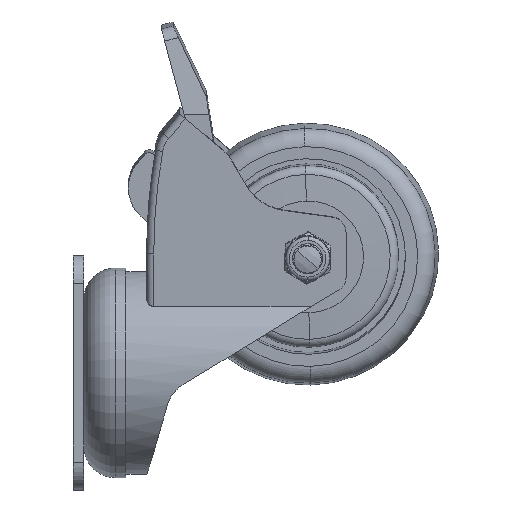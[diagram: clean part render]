
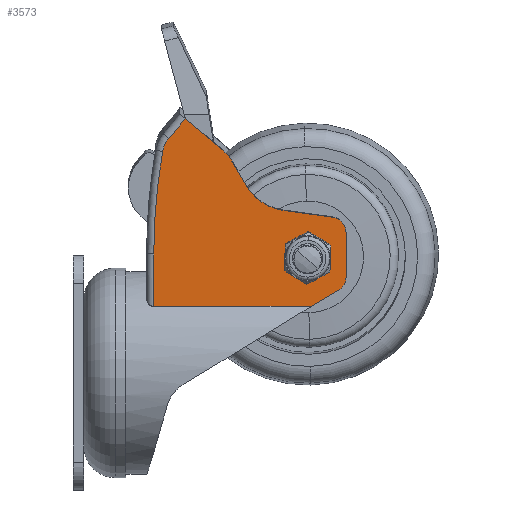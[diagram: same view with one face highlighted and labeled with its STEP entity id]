
A CAD part, left-side view. The second image highlights one B-rep face of the part: STEP entity #3573.
In plain terms, the highlighted planar face has unit normal (-0.999, 0, -0.046) as drawn and (-1, 0, 0) by its records, which use the part's own axes.
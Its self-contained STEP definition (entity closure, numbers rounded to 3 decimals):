
#137 = AXIS2_PLACEMENT_3D ( 'NONE', #7968, #19540, #176 ) ;
#176 = DIRECTION ( 'NONE',  ( 0., 0., -1. ) ) ;
#353 = VERTEX_POINT ( 'NONE', #21528 ) ;
#498 = ORIENTED_EDGE ( 'NONE', *, *, #1021, .F. ) ;
#856 = LINE ( 'NONE', #6767, #6109 ) ;
#893 = VERTEX_POINT ( 'NONE', #1180 ) ;
#1021 = EDGE_CURVE ( 'NONE', #353, #13939, #9701, .T. ) ;
#1064 = AXIS2_PLACEMENT_3D ( 'NONE', #24488, #12782, #20446 ) ;
#1180 = CARTESIAN_POINT ( 'NONE',  ( -21., 52.449, 64.317 ) ) ;
#1272 = CARTESIAN_POINT ( 'NONE',  ( -21., 3.888, 45.533 ) ) ;
#1593 = ORIENTED_EDGE ( 'NONE', *, *, #24088, .T. ) ;
#1682 = VERTEX_POINT ( 'NONE', #12592 ) ;
#1705 = CARTESIAN_POINT ( 'NONE',  ( -21., 55., 35. ) ) ;
#1782 = DIRECTION ( 'NONE',  ( 0., 0., -1. ) ) ;
#2310 = AXIS2_PLACEMENT_3D ( 'NONE', #9440, #21016, #1782 ) ;
#2521 = VECTOR ( 'NONE', #9323, 1000. ) ;
#2615 = ORIENTED_EDGE ( 'NONE', *, *, #11984, .F. ) ;
#2735 = VERTEX_POINT ( 'NONE', #23286 ) ;
#2783 = CARTESIAN_POINT ( 'NONE',  ( -21., -21.618, 38.971 ) ) ;
#2961 = CARTESIAN_POINT ( 'NONE',  ( -21., 55., 20. ) ) ;
#3055 = DIRECTION ( 'NONE',  ( 0., 0., -1. ) ) ;
#3218 = DIRECTION ( 'NONE',  ( 0., 0., -1. ) ) ;
#3517 = CARTESIAN_POINT ( 'NONE',  ( -21., 1.942, 24.835 ) ) ;
#3573 = ADVANCED_FACE ( 'NONE', ( #9538, #11063 ), #15059, .F. ) ;
#3684 = CARTESIAN_POINT ( 'NONE',  ( -21., 11., 30. ) ) ;
#3766 = VERTEX_POINT ( 'NONE', #20460 ) ;
#4059 = CARTESIAN_POINT ( 'NONE',  ( -21., 19.626, 51.611 ) ) ;
#4469 = VERTEX_POINT ( 'NONE', #3517 ) ;
#4550 = DIRECTION ( 'NONE',  ( 0., -0.991, -0.136 ) ) ;
#4761 = DIRECTION ( 'NONE',  ( 0., -0.502, -0.865 ) ) ;
#5353 = DIRECTION ( 'NONE',  ( -1., 0., 0. ) ) ;
#6028 = DIRECTION ( 'NONE',  ( 0., 0., -1. ) ) ;
#6109 = VECTOR ( 'NONE', #4761, 1000. ) ;
#6155 = DIRECTION ( 'NONE',  ( 0., 0., -1. ) ) ;
#6193 = AXIS2_PLACEMENT_3D ( 'NONE', #13813, #22988, #6155 ) ;
#6548 = EDGE_CURVE ( 'NONE', #1682, #3766, #856, .T. ) ;
#6767 = CARTESIAN_POINT ( 'NONE',  ( -21., 30.234, 57.442 ) ) ;
#6887 = VERTEX_POINT ( 'NONE', #1272 ) ;
#6992 = ORIENTED_EDGE ( 'NONE', *, *, #9135, .T. ) ;
#7786 = DIRECTION ( 'NONE',  ( 0., 0., -1. ) ) ;
#7898 = VERTEX_POINT ( 'NONE', #2961 ) ;
#7968 = CARTESIAN_POINT ( 'NONE',  ( -21., 11., 34. ) ) ;
#8408 = ORIENTED_EDGE ( 'NONE', *, *, #21651, .T. ) ;
#8559 = VECTOR ( 'NONE', #10214, 1000. ) ;
#8656 = CARTESIAN_POINT ( 'NONE',  ( -21., 10., 20. ) ) ;
#8709 = VECTOR ( 'NONE', #4550, 1000. ) ;
#8970 = AXIS2_PLACEMENT_3D ( 'NONE', #18670, #5353, #9120 ) ;
#8972 = EDGE_CURVE ( 'NONE', #2735, #19694, #24110, .T. ) ;
#9046 = CIRCLE ( 'NONE', #10272, 4. ) ;
#9049 = EDGE_CURVE ( 'NONE', #15232, #893, #10197, .T. ) ;
#9120 = DIRECTION ( 'NONE',  ( 0., 0., -1. ) ) ;
#9135 = EDGE_CURVE ( 'NONE', #2735, #6887, #16974, .T. ) ;
#9281 = DIRECTION ( 'NONE',  ( 0., 0.643, -0.766 ) ) ;
#9323 = DIRECTION ( 'NONE',  ( 0., -0.766, -0.643 ) ) ;
#9440 = CARTESIAN_POINT ( 'NONE',  ( -21., 11., 34. ) ) ;
#9538 = FACE_BOUND ( 'NONE', #24895, .T. ) ;
#9607 = DIRECTION ( 'NONE',  ( 0., 0., -1. ) ) ;
#9701 = LINE ( 'NONE', #4059, #2521 ) ;
#10153 = CARTESIAN_POINT ( 'NONE',  ( -21., 17.745, 47.435 ) ) ;
#10197 = CIRCLE ( 'NONE', #8970, 8. ) ;
#10214 = DIRECTION ( 'NONE',  ( 0., 0.857, -0.514 ) ) ;
#10217 = LINE ( 'NONE', #17866, #8709 ) ;
#10272 = AXIS2_PLACEMENT_3D ( 'NONE', #19607, #23251, #6028 ) ;
#10339 = LINE ( 'NONE', #2783, #8559 ) ;
#11025 = ORIENTED_EDGE ( 'NONE', *, *, #13244, .T. ) ;
#11063 = FACE_OUTER_BOUND ( 'NONE', #22209, .T. ) ;
#11112 = ORIENTED_EDGE ( 'NONE', *, *, #8972, .F. ) ;
#11426 = CARTESIAN_POINT ( 'NONE',  ( -21., 55., 75. ) ) ;
#11643 = EDGE_CURVE ( 'NONE', #23863, #13322, #14951, .T. ) ;
#11916 = CIRCLE ( 'NONE', #1064, 15. ) ;
#11984 = EDGE_CURVE ( 'NONE', #4469, #15668, #10339, .T. ) ;
#12002 = ORIENTED_EDGE ( 'NONE', *, *, #22123, .F. ) ;
#12010 = ORIENTED_EDGE ( 'NONE', *, *, #15844, .T. ) ;
#12039 = LINE ( 'NONE', #18504, #17001 ) ;
#12592 = CARTESIAN_POINT ( 'NONE',  ( -21., 32.832, 61.916 ) ) ;
#12782 = DIRECTION ( 'NONE',  ( 1., 0., 0. ) ) ;
#12833 = ORIENTED_EDGE ( 'NONE', *, *, #13701, .T. ) ;
#12967 = ORIENTED_EDGE ( 'NONE', *, *, #6548, .F. ) ;
#12985 = CIRCLE ( 'NONE', #6193, 10. ) ;
#13244 = EDGE_CURVE ( 'NONE', #1682, #13939, #12985, .T. ) ;
#13322 = VERTEX_POINT ( 'NONE', #15698 ) ;
#13437 = LINE ( 'NONE', #18842, #17880 ) ;
#13509 = DIRECTION ( 'NONE',  ( -1., 0., 0. ) ) ;
#13701 = EDGE_CURVE ( 'NONE', #7898, #15668, #12039, .T. ) ;
#13813 = CARTESIAN_POINT ( 'NONE',  ( -21., 41.48, 56.894 ) ) ;
#13939 = VERTEX_POINT ( 'NONE', #23169 ) ;
#14647 = VECTOR ( 'NONE', #22857, 1000. ) ;
#14946 = CARTESIAN_POINT ( 'NONE',  ( -21., 0., 28.265 ) ) ;
#14951 = CIRCLE ( 'NONE', #137, 4. ) ;
#15059 = PLANE ( 'NONE',  #16585 ) ;
#15135 = CIRCLE ( 'NONE', #21989, 169.752 ) ;
#15229 = ORIENTED_EDGE ( 'NONE', *, *, #23131, .T. ) ;
#15232 = VERTEX_POINT ( 'NONE', #15729 ) ;
#15454 = EDGE_CURVE ( 'NONE', #21788, #7898, #20851, .T. ) ;
#15587 = EDGE_CURVE ( 'NONE', #4469, #19694, #9046, .T. ) ;
#15668 = VERTEX_POINT ( 'NONE', #8656 ) ;
#15698 = CARTESIAN_POINT ( 'NONE',  ( -21., 11., 38. ) ) ;
#15729 = CARTESIAN_POINT ( 'NONE',  ( -21., 50.698, 68.078 ) ) ;
#15844 = EDGE_CURVE ( 'NONE', #353, #15232, #13437, .T. ) ;
#15932 = DIRECTION ( 'NONE',  ( 0., -1., 0. ) ) ;
#16047 = ORIENTED_EDGE ( 'NONE', *, *, #11643, .T. ) ;
#16263 = CARTESIAN_POINT ( 'NONE',  ( -21., -114.752, 35. ) ) ;
#16585 = AXIS2_PLACEMENT_3D ( 'NONE', #24649, #20857, #7786 ) ;
#16659 = CARTESIAN_POINT ( 'NONE',  ( -21., 0., 75. ) ) ;
#16974 = CIRCLE ( 'NONE', #22600, 4.5 ) ;
#17001 = VECTOR ( 'NONE', #15932, 1000. ) ;
#17391 = VECTOR ( 'NONE', #3218, 1000. ) ;
#17769 = ORIENTED_EDGE ( 'NONE', *, *, #15587, .T. ) ;
#17866 = CARTESIAN_POINT ( 'NONE',  ( -21., 4.04, 45.554 ) ) ;
#17880 = VECTOR ( 'NONE', #9281, 1000. ) ;
#18385 = DIRECTION ( 'NONE',  ( -1., 0., 0. ) ) ;
#18504 = CARTESIAN_POINT ( 'NONE',  ( -21., 75., 20. ) ) ;
#18653 = ORIENTED_EDGE ( 'NONE', *, *, #9049, .T. ) ;
#18670 = CARTESIAN_POINT ( 'NONE',  ( -21., 44.569, 62.935 ) ) ;
#18842 = CARTESIAN_POINT ( 'NONE',  ( -21., 50.698, 68.078 ) ) ;
#19540 = DIRECTION ( 'NONE',  ( 1., 0., 0. ) ) ;
#19607 = CARTESIAN_POINT ( 'NONE',  ( -21., 4., 28.265 ) ) ;
#19694 = VERTEX_POINT ( 'NONE', #14946 ) ;
#20383 = ORIENTED_EDGE ( 'NONE', *, *, #15454, .T. ) ;
#20446 = DIRECTION ( 'NONE',  ( 0., 0., -1. ) ) ;
#20460 = CARTESIAN_POINT ( 'NONE',  ( -21., 28.678, 54.762 ) ) ;
#20851 = LINE ( 'NONE', #11426, #14647 ) ;
#20857 = DIRECTION ( 'NONE',  ( 1., 0., 0. ) ) ;
#21016 = DIRECTION ( 'NONE',  ( 1., 0., 0. ) ) ;
#21528 = CARTESIAN_POINT ( 'NONE',  ( -21., 45.968, 73.714 ) ) ;
#21651 = EDGE_CURVE ( 'NONE', #22673, #3766, #11916, .T. ) ;
#21788 = VERTEX_POINT ( 'NONE', #1705 ) ;
#21989 = AXIS2_PLACEMENT_3D ( 'NONE', #16263, #18385, #3055 ) ;
#22123 = EDGE_CURVE ( 'NONE', #22673, #6887, #10217, .T. ) ;
#22209 = EDGE_LOOP ( 'NONE', ( #1593, #20383, #12833, #2615, #17769, #11112, #6992, #12002, #8408, #12967, #11025, #498, #12010, #18653 ) ) ;
#22350 = CIRCLE ( 'NONE', #2310, 4. ) ;
#22600 = AXIS2_PLACEMENT_3D ( 'NONE', #23208, #13509, #9607 ) ;
#22673 = VERTEX_POINT ( 'NONE', #10153 ) ;
#22857 = DIRECTION ( 'NONE',  ( 0., 0., -1. ) ) ;
#22988 = DIRECTION ( 'NONE',  ( -1., 0., 0. ) ) ;
#23131 = EDGE_CURVE ( 'NONE', #13322, #23863, #22350, .T. ) ;
#23169 = CARTESIAN_POINT ( 'NONE',  ( -21., 35.052, 64.555 ) ) ;
#23208 = CARTESIAN_POINT ( 'NONE',  ( -21., 4.5, 41.075 ) ) ;
#23251 = DIRECTION ( 'NONE',  ( -1., 0., 0. ) ) ;
#23286 = CARTESIAN_POINT ( 'NONE',  ( -21., 0., 41.075 ) ) ;
#23863 = VERTEX_POINT ( 'NONE', #3684 ) ;
#24088 = EDGE_CURVE ( 'NONE', #893, #21788, #15135, .T. ) ;
#24110 = LINE ( 'NONE', #16659, #17391 ) ;
#24488 = CARTESIAN_POINT ( 'NONE',  ( -21., 15.706, 62.295 ) ) ;
#24649 = CARTESIAN_POINT ( 'NONE',  ( -21., 0., 75. ) ) ;
#24895 = EDGE_LOOP ( 'NONE', ( #16047, #15229 ) ) ;
